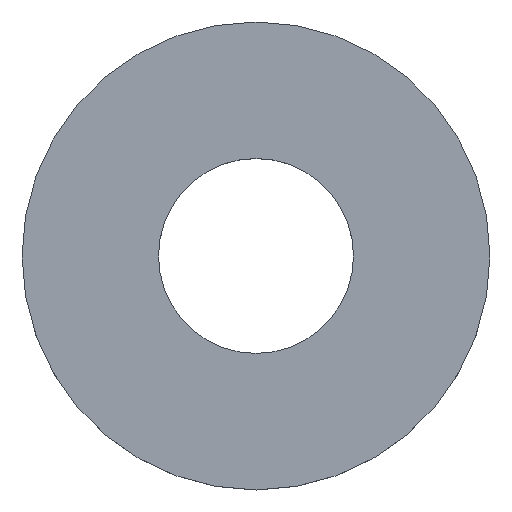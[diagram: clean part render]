
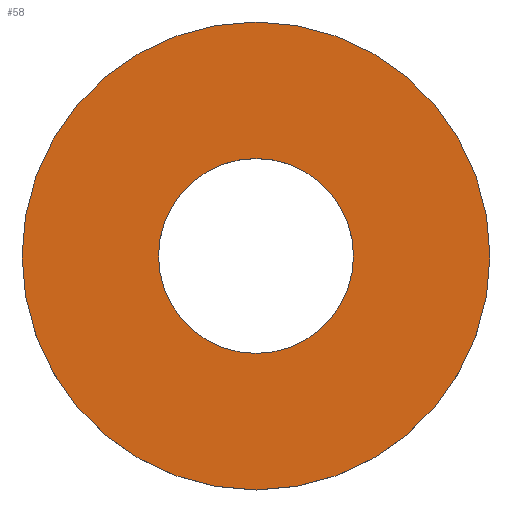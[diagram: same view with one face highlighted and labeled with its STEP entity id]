
A CAD part, top view. The second image highlights one B-rep face of the part: STEP entity #58.
In plain terms, the highlighted planar face has unit normal (0, 0, 1).
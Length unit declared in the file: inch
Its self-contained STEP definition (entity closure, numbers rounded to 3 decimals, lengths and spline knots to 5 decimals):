
#16=PLANE('',#68);
#20=FACE_BOUND('',#32,.T.);
#24=FACE_OUTER_BOUND('',#31,.T.);
#31=EDGE_LOOP('',(#51));
#32=EDGE_LOOP('',(#52));
#33=CIRCLE('',#62,0.46875);
#35=CIRCLE('',#65,1.125);
#37=VERTEX_POINT('',#89);
#39=VERTEX_POINT('',#94);
#41=EDGE_CURVE('',#37,#37,#33,.T.);
#43=EDGE_CURVE('',#39,#39,#35,.T.);
#51=ORIENTED_EDGE('',*,*,#43,.T.);
#52=ORIENTED_EDGE('',*,*,#41,.T.);
#58=ADVANCED_FACE('',(#24,#20),#16,.T.);
#62=AXIS2_PLACEMENT_3D('',#90,#73,#74);
#65=AXIS2_PLACEMENT_3D('',#95,#79,#80);
#68=AXIS2_PLACEMENT_3D('',#99,#85,#86);
#73=DIRECTION('center_axis',(0.,0.,-1.));
#74=DIRECTION('ref_axis',(-1.,0.,0.));
#79=DIRECTION('center_axis',(0.,0.,1.));
#80=DIRECTION('ref_axis',(-1.,0.,0.));
#85=DIRECTION('center_axis',(0.,0.,1.));
#86=DIRECTION('ref_axis',(1.,0.,0.));
#89=CARTESIAN_POINT('',(0.46875,0.,0.25));
#90=CARTESIAN_POINT('Origin',(0.,0.,0.25));
#94=CARTESIAN_POINT('',(1.125,0.,0.25));
#95=CARTESIAN_POINT('Origin',(0.,0.,0.25));
#99=CARTESIAN_POINT('Origin',(0.,0.,0.25));
